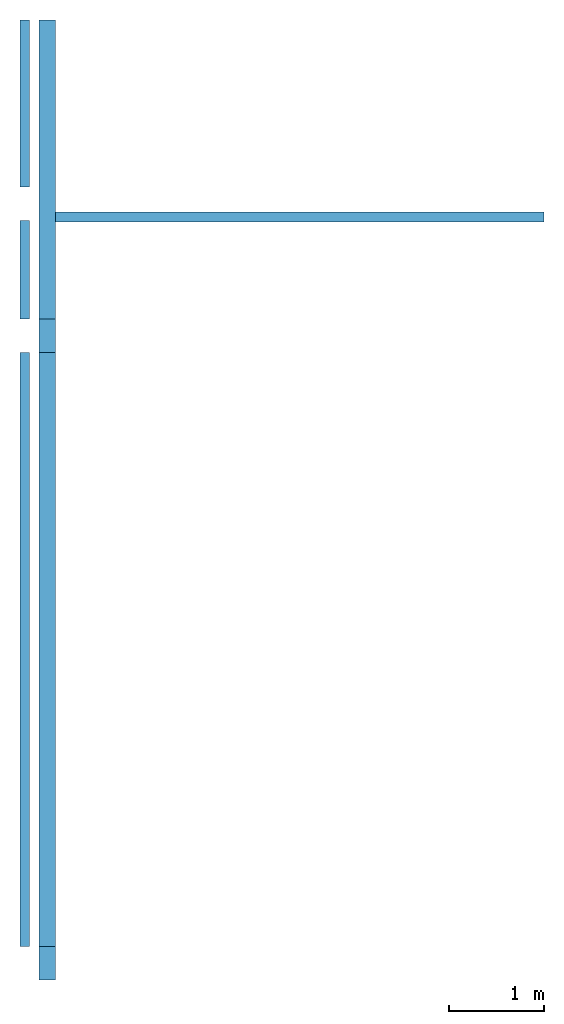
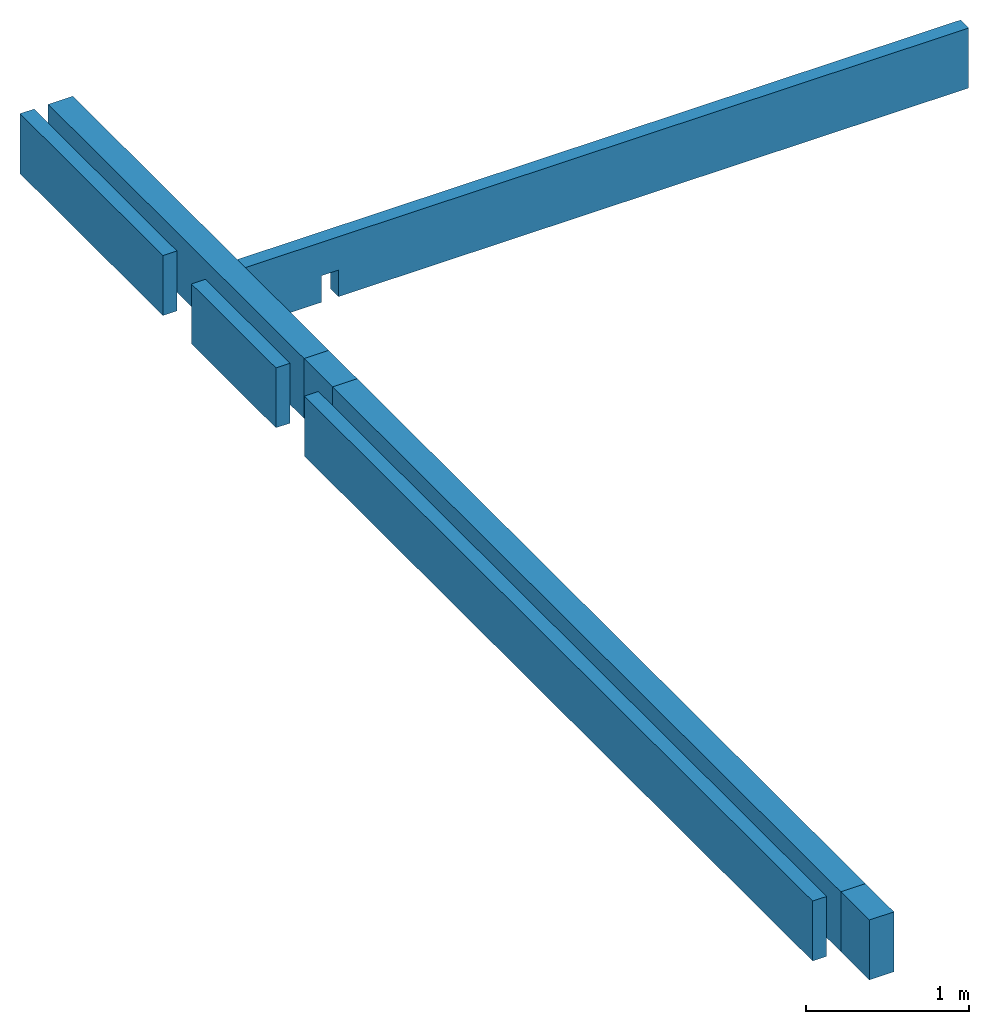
# One storey: 6 walls, 2 columns.
"""IFC2X3 building model written with IfcOpenShell, lengths in millimetres."""

from ifc_helpers import new_model, entity, si_unit, converted_unit, derived_unit, direction, frame, origin, origin_with_axes, place, context, subcontext, project, spatial, faceted_brep, material, layer, layer_set, type_object, element, save


model = new_model("IFC2X3")

# Units and contexts
model_context = context("Model", 3, precision=0.01, world=origin(), true_north=direction((6.12303176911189e-17, 1.0)))
plan_context = context("Plan", 3, precision=1e-05, world=origin_with_axes())
body_context = subcontext(model_context, "Body", "Model", "MODEL_VIEW")
ifc_project = project(units=[converted_unit("PLANEANGLEUNIT", "DEGREE", entity("IfcPositiveLengthMeasure", 0.0174532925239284), si_unit("PLANEANGLEUNIT", "RADIAN"), dimensions=[0, 0, 0, 0, 0, 0, 0]), si_unit("AREAUNIT", "SQUARE_METRE"), si_unit("LENGTHUNIT", "METRE", prefix="MILLI"), si_unit("MASSUNIT", "GRAM", prefix="KILO"), si_unit("POWERUNIT", "WATT"), si_unit("PRESSUREUNIT", "PASCAL"), si_unit("FORCEUNIT", "NEWTON", prefix="KILO"), si_unit("ELECTRICVOLTAGEUNIT", "VOLT"), si_unit("ELECTRICCURRENTUNIT", "AMPERE"), si_unit("THERMODYNAMICTEMPERATUREUNIT", "DEGREE_CELSIUS"), si_unit("TIMEUNIT", "SECOND"), si_unit("VOLUMEUNIT", "CUBIC_METRE"), derived_unit("LINEARVELOCITYUNIT", [(si_unit("LENGTHUNIT", "METRE"), 1), (si_unit("TIMEUNIT", "SECOND"), -1)]), derived_unit("VOLUMETRICFLOWRATEUNIT", [(si_unit("VOLUMEUNIT", "CUBIC_METRE"), 1), (si_unit("TIMEUNIT", "SECOND"), -1)]), derived_unit("THERMALTRANSMITTANCEUNIT", [(si_unit("POWERUNIT", "WATT"), 1), (si_unit("THERMODYNAMICTEMPERATUREUNIT", "KELVIN"), -1), (si_unit("AREAUNIT", "SQUARE_METRE"), -1)]), derived_unit("SOUNDPRESSUREUNIT", [(si_unit("PRESSUREUNIT", "PASCAL"), 1)])], contexts=[model_context, plan_context])

# Site, building, storey
site_placement = place(None, frame((2314154.5009392, 1029894.10887124, 0.0), z_axis=(0.0, 0.0, 1.0), x_axis=(1.0, 0.0, 0.0)))
site = spatial("IfcSite", under=ifc_project, at=site_placement, Name="Default", CompositionType="ELEMENT")
building_placement = place(site_placement, origin_with_axes())
building = spatial("IfcBuilding", under=site, at=building_placement, CompositionType="ELEMENT")
storey_placement = place(building_placement, frame((0.0, 0.0, 13870.0), z_axis=(0.0, 0.0, 1.0), x_axis=(1.0, 0.0, 0.0)))
storey = spatial("IfcBuildingStorey", under=building, at=storey_placement, Name="C + 13,87 TB E2", CompositionType="ELEMENT", Elevation=13870.0)

# Columns
ifc_material_1 = material(Name="_NSW Betong")
column_type_1 = type_object("IfcColumnType", Name="NSW Søyle - Betong rektangulær:350 x 175 mm", PredefinedType="COLUMN", material=ifc_material_1)
column_1_placement = place(storey_placement, frame((0.0, 0.0, -13870.0), z_axis=(0.0, 0.0, 1.0), x_axis=(1.0, 0.0, 0.0)))
element("IfcColumn", 1, at=column_1_placement, inside=storey, type_object=column_type_1, Name="NSW Søyle - Betong rektangulær:350 x 175 mm", ObjectType="NSW Søyle - Betong rektangulær:350 x 175 mm", context=body_context, shape_type="Brep", body=[
    faceted_brep([(307241.133947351, -36824.4514097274, 14320.0), (307241.133947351, -36474.4514097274, 14320.0), (307241.133947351, -36474.4514097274, 13870.0), (307241.133947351, -36824.4514097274, 13870.0), (307066.133947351, -36474.4514097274, 14320.0), (307066.133947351, -36474.4514097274, 13870.0), (307066.133947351, -36824.4514097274, 14320.0), (307066.133947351, -36824.4514097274, 13870.0)], [[[0, 1, 2, 3]], [[1, 4, 5, 2]], [[4, 6, 7, 5]], [[6, 0, 3, 7]], [[3, 2, 5, 7]], [[6, 4, 1, 0]]], orient=[[False], [False], [False], [False], [False], [False]]),
])
column_type_2 = type_object("IfcColumnType", Name="NSW Søyle - Betong rektangulær:350 x 175 mm", PredefinedType="COLUMN", material=ifc_material_1)
column_2_placement = place(storey_placement, frame((0.0, 0.0, -13870.0), z_axis=(0.0, 0.0, 1.0), x_axis=(1.0, 0.0, 0.0)))
element("IfcColumn", 2, at=column_2_placement, inside=storey, type_object=column_type_2, Name="NSW Søyle - Betong rektangulær:350 x 175 mm", ObjectType="NSW Søyle - Betong rektangulær:350 x 175 mm", context=body_context, shape_type="Brep", body=[
    faceted_brep([(307241.133947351, -43424.4514097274, 14320.0), (307241.133947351, -43074.4514097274, 14320.0), (307241.133947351, -43074.4514097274, 13870.0), (307241.133947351, -43424.4514097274, 13870.0), (307066.133947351, -43074.4514097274, 14320.0), (307066.133947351, -43074.4514097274, 13870.0), (307066.133947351, -43424.4514097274, 14320.0), (307066.133947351, -43424.4514097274, 13870.0)], [[[0, 1, 2, 3]], [[1, 4, 5, 2]], [[4, 6, 7, 5]], [[6, 0, 3, 7]], [[3, 2, 5, 7]], [[6, 4, 1, 0]]], orient=[[False], [False], [False], [False], [False], [False]]),
])

# Walls
ifc_material_2 = material(Name="Existing - Bridget key")
ifc_layer_1 = layer(ifc_material_2, 175.0)
ifc_layer_set_1 = layer_set([ifc_layer_1], Name="Basic Wall:V_Existing 175mm")
wall_type_1 = type_object("IfcWallType", Name="Basic Wall:V_Existing 175mm", PredefinedType="STANDARD", material=ifc_layer_set_1)
wall_1_placement = place(storey_placement, frame((307153.633947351, -30224.4514097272, 0.0), z_axis=(0.0, 0.0, 1.0), x_axis=(0.0, -1.0, 0.0)))
element("IfcWall", 3, at=wall_1_placement, inside=storey, type_object=wall_type_1, Name="Basic Wall:V_Existing 175mm", ObjectType="Basic Wall:V_Existing 175mm", context=body_context, shape_type="Brep", body=[
    faceted_brep([(6250.0, -87.5000000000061, 450.0), (6250.0, 87.5000000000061, 450.0), (6250.0, 87.5000000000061, 0.0), (6250.0, -87.5000000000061, 0.0), (3102.99999999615, 87.5000000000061, 450.0), (3102.99999999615, 87.5000000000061, 0.0), (3102.99999999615, -87.5000000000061, 0.0), (3102.99999999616, -87.5000000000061, 450.0)], [[[0, 1, 2, 3]], [[1, 4, 5, 2]], [[6, 7, 0, 3]], [[5, 6, 3, 2]], [[7, 6, 5, 4]], [[4, 1, 0, 7]]], orient=[[False], [False], [False], [False], [False], [False]]),
])
wall_2_placement = place(storey_placement, frame((307153.633947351, -36824.4514097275, 0.0), z_axis=(0.0, 0.0, 1.0), x_axis=(0.0, -1.0, 0.0)))
element("IfcWall", 4, at=wall_2_placement, inside=storey, type_object=wall_type_1, Name="Basic Wall:V_Existing 175mm", ObjectType="Basic Wall:V_Existing 175mm", context=body_context, shape_type="Brep", body=[
    faceted_brep([(6250.0, -87.5000000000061, 450.0), (6250.0, 87.5000000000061, 450.0), (6250.0, 87.5000000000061, 0.0), (6250.0, -87.5000000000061, 0.0), (0.0, 87.5000000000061, 450.0), (0.0, 87.5000000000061, 0.0), (0.0, -87.5000000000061, 450.0), (0.0, -87.5000000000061, 0.0)], [[[0, 1, 2, 3]], [[1, 4, 5, 2]], [[4, 6, 7, 5]], [[6, 0, 3, 7]], [[3, 2, 5, 7]], [[6, 4, 1, 0]]], orient=[[False], [False], [False], [False], [False], [False]]),
])
ifc_layer_2 = layer(ifc_material_2, 100.0)
ifc_layer_set_2 = layer_set([ifc_layer_2], Name="Basic Wall:V_Existing 100mm")
wall_type_2 = type_object("IfcWallType", Name="Basic Wall:V_Existing 100mm", PredefinedType="STANDARD", material=ifc_layer_set_2)
wall_3_placement = place(storey_placement, frame((307241.133943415, -35399.4514097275, 0.0), z_axis=(0.0, 0.0, 1.0), x_axis=(1.0, 0.0, 0.0)))
element("IfcWall", 5, at=wall_3_placement, inside=storey, type_object=wall_type_2, Name="Basic Wall:V_Existing 100mm", ObjectType="Basic Wall:V_Existing 100mm", context=body_context, shape_type="Brep", body=[
    faceted_brep([(3.47281508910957e-06, -50.0, 450.0), (5135.0, -50.0, 450.0), (5135.0, -50.0, 0.0), (660.500003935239, -50.0, 0.0), (660.500003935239, -50.0, 200.008972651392), (539.500003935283, -50.0, 200.008972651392), (539.500003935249, -50.0, 0.0), (3.93517212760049e-06, -50.0, 0.0), (5135.0, 50.0, 450.0), (3.93517179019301e-06, 50.0, 450.0), (3.93517179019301e-06, 50.0, 0.0), (539.500003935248, 50.0, 0.0), (539.500003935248, 50.0, 200.008972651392), (660.500003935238, 50.0, 200.008972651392), (660.500003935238, 50.0, 0.0), (5135.0, 50.0, 0.0), (3.9351718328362e-06, -50.0, 450.0)], [[[0, 1, 2, 3, 4, 5, 6, 7]], [[8, 9, 10, 11, 12, 13, 14, 15]], [[6, 11, 10, 7]], [[9, 16, 7, 10]], [[1, 8, 15, 2]], [[3, 14, 13, 4]], [[11, 6, 5, 12]], [[12, 5, 4, 13]], [[14, 3, 2, 15]], [[9, 8, 1, 0]]], orient=[[False], [False], [False], [False], [False], [False], [False], [False], [False], [False]]),
])
wall_4_placement = place(storey_placement, frame((306916.133947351, -30224.4514097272, 0.0), z_axis=(0.0, 0.0, 1.0), x_axis=(0.0, -1.0, 0.0)))
element("IfcWall", 6, at=wall_4_placement, inside=storey, type_object=wall_type_2, Name="Basic Wall:V_Existing 100mm", ObjectType="Basic Wall:V_Existing 100mm", context=body_context, shape_type="Brep", body=[
    faceted_brep([(4860.62364645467, -49.9999999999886, 450.0), (4860.62364645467, 49.9999999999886, 450.0), (4860.62364645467, 49.9999999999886, 0.0), (4860.62364645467, -49.9999999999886, 0.0), (3102.99999999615, 49.9999999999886, 450.0), (3102.99999999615, 49.9999999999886, 0.0), (3102.99999999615, -49.9999999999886, 0.0), (3102.99999999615, -49.9999999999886, 450.0)], [[[0, 1, 2, 3]], [[1, 4, 5, 2]], [[6, 7, 0, 3]], [[5, 6, 3, 2]], [[7, 6, 5, 4]], [[4, 1, 0, 7]]], orient=[[False], [False], [False], [False], [False], [False]]),
])
wall_5_placement = place(storey_placement, frame((306916.133947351, -35435.0750561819, 0.0), z_axis=(0.0, 0.0, 1.0), x_axis=(0.0, -1.0, 0.0)))
element("IfcWall", 7, at=wall_5_placement, inside=storey, type_object=wall_type_2, Name="Basic Wall:V_Existing 100mm", ObjectType="Basic Wall:V_Existing 100mm", context=body_context, shape_type="Brep", body=[
    faceted_brep([(1039.37635354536, -49.9999999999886, 450.0), (1039.37635354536, 49.9999999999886, 450.0), (1039.37635354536, 49.9999999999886, 0.0), (1039.37635354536, -49.9999999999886, 0.0), (0.0, 49.9999999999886, 450.0), (0.0, 49.9999999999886, 0.0), (0.0, -49.9999999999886, 450.0), (0.0, -49.9999999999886, 0.0)], [[[0, 1, 2, 3]], [[1, 4, 5, 2]], [[4, 6, 7, 5]], [[6, 0, 3, 7]], [[3, 2, 5, 7]], [[6, 4, 1, 0]]], orient=[[False], [False], [False], [False], [False], [False]]),
])
wall_6_placement = place(storey_placement, frame((306916.133947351, -36824.4514097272, 0.0), z_axis=(0.0, 0.0, 1.0), x_axis=(0.0, -1.0, 0.0)))
element("IfcWall", 8, at=wall_6_placement, inside=storey, type_object=wall_type_2, Name="Basic Wall:V_Existing 100mm", ObjectType="Basic Wall:V_Existing 100mm", context=body_context, shape_type="Brep", body=[
    faceted_brep([(6250.00000000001, -49.9999999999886, 450.0), (6250.00000000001, 49.9999999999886, 450.0), (6250.00000000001, 49.9999999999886, 0.0), (6250.00000000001, -49.9999999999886, 0.0), (0.0, 49.9999999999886, 450.0), (0.0, 49.9999999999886, 0.0), (0.0, -49.9999999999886, 450.0), (0.0, -49.9999999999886, 0.0)], [[[0, 1, 2, 3]], [[1, 4, 5, 2]], [[4, 6, 7, 5]], [[6, 0, 3, 7]], [[3, 2, 5, 7]], [[6, 4, 1, 0]]], orient=[[False], [False], [False], [False], [False], [False]]),
])

save(model, "model.ifc")
